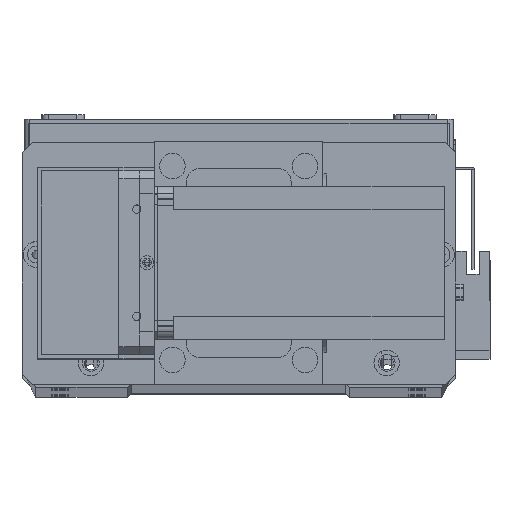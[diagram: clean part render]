
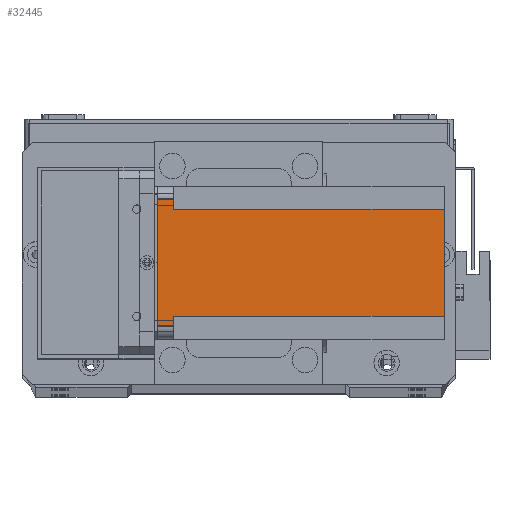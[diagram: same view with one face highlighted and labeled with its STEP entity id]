
A CAD part, top view. The second image highlights one B-rep face of the part: STEP entity #32445.
In plain terms, the highlighted planar face has unit normal (0, 0, 1) as drawn and (-1, 0, 0) by its records, which use the part's own axes.
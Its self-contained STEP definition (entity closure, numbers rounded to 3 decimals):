
#60 = CARTESIAN_POINT ( 'NONE',  ( 0., 5., 0. ) ) ;
#143 = DIRECTION ( 'NONE',  ( 0., 0., 1. ) ) ;
#361 = ORIENTED_EDGE ( 'NONE', *, *, #23001, .T. ) ;
#1126 = ORIENTED_EDGE ( 'NONE', *, *, #9701, .F. ) ;
#1349 = DIRECTION ( 'NONE',  ( 0., -1., 0. ) ) ;
#1538 = DIRECTION ( 'NONE',  ( 0., 0., 1. ) ) ;
#2253 = VERTEX_POINT ( 'NONE', #17871 ) ;
#3310 = CARTESIAN_POINT ( 'NONE',  ( 0., 55., -6.5 ) ) ;
#3574 = EDGE_CURVE ( 'NONE', #30171, #4665, #6543, .T. ) ;
#3842 = PLANE ( 'NONE',  #26035 ) ;
#3888 = LINE ( 'NONE', #30740, #30628 ) ;
#3970 = VECTOR ( 'NONE', #1349, 1000. ) ;
#4597 = CARTESIAN_POINT ( 'NONE',  ( 0., 55., -112.5 ) ) ;
#4665 = VERTEX_POINT ( 'NONE', #13898 ) ;
#5979 = LINE ( 'NONE', #19856, #24196 ) ;
#6543 = LINE ( 'NONE', #15646, #33292 ) ;
#7597 = DIRECTION ( 'NONE',  ( 0., 1., 0. ) ) ;
#8801 = EDGE_CURVE ( 'NONE', #2253, #16768, #13532, .T. ) ;
#8803 = ORIENTED_EDGE ( 'NONE', *, *, #22209, .T. ) ;
#9003 = DIRECTION ( 'NONE',  ( 0., -1., 0. ) ) ;
#9508 = VERTEX_POINT ( 'NONE', #29853 ) ;
#9701 = EDGE_CURVE ( 'NONE', #9508, #26123, #3888, .T. ) ;
#10144 = CARTESIAN_POINT ( 'NONE',  ( 0., 51., -112.5 ) ) ;
#10484 = CARTESIAN_POINT ( 'NONE',  ( 0., 9., -112.5 ) ) ;
#11156 = CARTESIAN_POINT ( 'NONE',  ( 0., 9., -112.5 ) ) ;
#12085 = EDGE_CURVE ( 'NONE', #12728, #2253, #15011, .T. ) ;
#12728 = VERTEX_POINT ( 'NONE', #26127 ) ;
#13532 = LINE ( 'NONE', #10484, #26528 ) ;
#13898 = CARTESIAN_POINT ( 'NONE',  ( 0., 51., -6.5 ) ) ;
#14984 = EDGE_CURVE ( 'NONE', #4665, #31766, #5979, .T. ) ;
#15011 = LINE ( 'NONE', #25721, #19461 ) ;
#15198 = DIRECTION ( 'NONE',  ( 0., -1., 0. ) ) ;
#15646 = CARTESIAN_POINT ( 'NONE',  ( 0., 51., -112.5 ) ) ;
#15684 = DIRECTION ( 'NONE',  ( 0., 0., -1. ) ) ;
#16768 = VERTEX_POINT ( 'NONE', #11156 ) ;
#17871 = CARTESIAN_POINT ( 'NONE',  ( 0., 9., -6.5 ) ) ;
#19461 = VECTOR ( 'NONE', #7597, 1000. ) ;
#19505 = ORIENTED_EDGE ( 'NONE', *, *, #14984, .F. ) ;
#19856 = CARTESIAN_POINT ( 'NONE',  ( 0., 60., -6.5 ) ) ;
#20083 = DIRECTION ( 'NONE',  ( 0., 0., -1. ) ) ;
#21268 = ORIENTED_EDGE ( 'NONE', *, *, #12085, .F. ) ;
#21883 = CARTESIAN_POINT ( 'NONE',  ( 0., 0., -112.5 ) ) ;
#22141 = LINE ( 'NONE', #32563, #32684 ) ;
#22209 = EDGE_CURVE ( 'NONE', #30171, #16768, #24595, .T. ) ;
#23001 = EDGE_CURVE ( 'NONE', #9508, #31766, #24964, .T. ) ;
#24154 = VECTOR ( 'NONE', #20083, 1000. ) ;
#24196 = VECTOR ( 'NONE', #27609, 1000. ) ;
#24525 = DIRECTION ( 'NONE',  ( -1., 0., 0. ) ) ;
#24595 = LINE ( 'NONE', #27168, #3970 ) ;
#24964 = LINE ( 'NONE', #4597, #24154 ) ;
#25111 = ORIENTED_EDGE ( 'NONE', *, *, #3574, .F. ) ;
#25721 = CARTESIAN_POINT ( 'NONE',  ( 0., 0., -6.5 ) ) ;
#26035 = AXIS2_PLACEMENT_3D ( 'NONE', #21883, #24525, #9003 ) ;
#26123 = VERTEX_POINT ( 'NONE', #60 ) ;
#26127 = CARTESIAN_POINT ( 'NONE',  ( 0., 5., -6.5 ) ) ;
#26528 = VECTOR ( 'NONE', #15684, 1000. ) ;
#27168 = CARTESIAN_POINT ( 'NONE',  ( 0., 0., -112.5 ) ) ;
#27609 = DIRECTION ( 'NONE',  ( 0., 1., 0. ) ) ;
#29087 = FACE_OUTER_BOUND ( 'NONE', #32611, .T. ) ;
#29330 = ORIENTED_EDGE ( 'NONE', *, *, #8801, .F. ) ;
#29853 = CARTESIAN_POINT ( 'NONE',  ( 0., 55., 0. ) ) ;
#30171 = VERTEX_POINT ( 'NONE', #10144 ) ;
#30628 = VECTOR ( 'NONE', #15198, 1000. ) ;
#30740 = CARTESIAN_POINT ( 'NONE',  ( 0., 0., 0. ) ) ;
#31766 = VERTEX_POINT ( 'NONE', #3310 ) ;
#32057 = ORIENTED_EDGE ( 'NONE', *, *, #32536, .T. ) ;
#32445 = ADVANCED_FACE ( 'NONE', ( #29087 ), #3842, .T. ) ;
#32536 = EDGE_CURVE ( 'NONE', #12728, #26123, #22141, .T. ) ;
#32563 = CARTESIAN_POINT ( 'NONE',  ( 0., 5., -112.5 ) ) ;
#32611 = EDGE_LOOP ( 'NONE', ( #21268, #32057, #1126, #361, #19505, #25111, #8803, #29330 ) ) ;
#32684 = VECTOR ( 'NONE', #1538, 1000. ) ;
#33292 = VECTOR ( 'NONE', #143, 1000. ) ;
